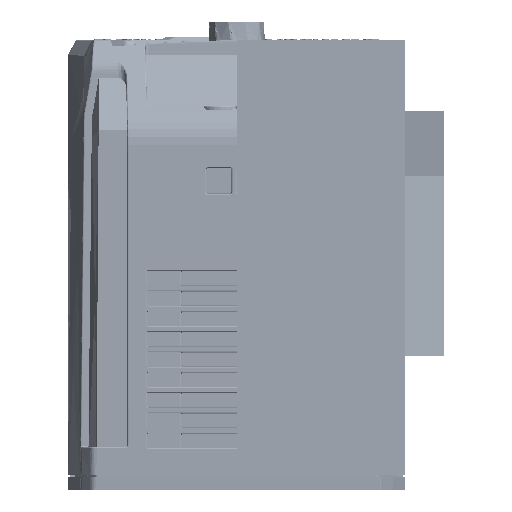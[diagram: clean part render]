
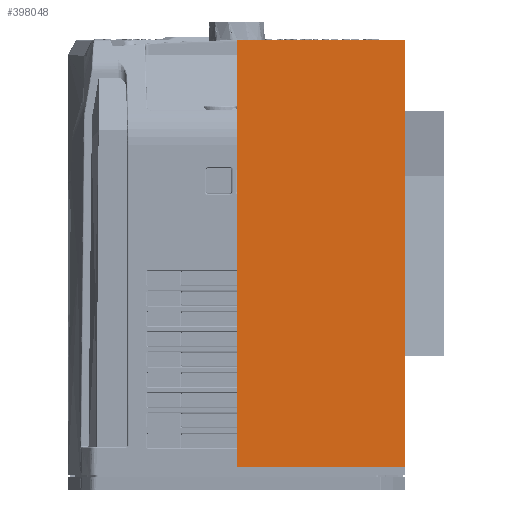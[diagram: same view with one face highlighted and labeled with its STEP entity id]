
A CAD part, front view. The second image highlights one B-rep face of the part: STEP entity #398048.
In plain terms, the highlighted planar face has unit normal (0, -1, 0) as drawn and (0, 0, 1) by its records, which use the part's own axes.
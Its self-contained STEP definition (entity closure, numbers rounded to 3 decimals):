
#397918=DIRECTION('',(1.,0.,0.));
#397919=VECTOR('',#397918,41.5);
#397920=CARTESIAN_POINT('',(0.,0.,74.5));
#397921=LINE('',#397920,#397919);
#397939=DIRECTION('',(0.,1.,0.));
#397940=VECTOR('',#397939,105.);
#397941=CARTESIAN_POINT('',(0.,0.,74.5));
#397942=LINE('',#397941,#397940);
#397967=DIRECTION('',(1.,0.,0.));
#397968=VECTOR('',#397967,41.5);
#397969=CARTESIAN_POINT('',(0.,105.,74.5));
#397970=LINE('',#397969,#397968);
#397988=DIRECTION('',(0.,1.,0.));
#397989=VECTOR('',#397988,105.);
#397990=CARTESIAN_POINT('',(41.5,0.,74.5));
#397991=LINE('',#397990,#397989);
#397995=CARTESIAN_POINT('',(41.5,0.,74.5));
#397997=VERTEX_POINT('',#397995);
#397999=CARTESIAN_POINT('',(41.5,105.,74.5));
#398001=VERTEX_POINT('',#397999);
#398003=CARTESIAN_POINT('',(0.,0.,74.5));
#398005=VERTEX_POINT('',#398003);
#398007=CARTESIAN_POINT('',(0.,105.,74.5));
#398009=VERTEX_POINT('',#398007);
#398034=CARTESIAN_POINT('',(-41.5,0.,74.5));
#398035=DIRECTION('',(0.,0.,1.));
#398036=DIRECTION('',(1.,0.,0.));
#398037=AXIS2_PLACEMENT_3D('',#398034,#398035,#398036);
#398038=PLANE('',#398037);
#398040=ORIENTED_EDGE('',*,*,#398039,.T.);
#398042=ORIENTED_EDGE('',*,*,#398041,.T.);
#398044=ORIENTED_EDGE('',*,*,#398043,.F.);
#398045=ORIENTED_EDGE('',*,*,#398018,.F.);
#398046=EDGE_LOOP('',(#398040,#398042,#398044,#398045));
#398047=FACE_OUTER_BOUND('',#398046,.F.);
#398018=EDGE_CURVE('',#398005,#397997,#397921,.T.);
#398039=EDGE_CURVE('',#398005,#398009,#397942,.T.);
#398041=EDGE_CURVE('',#398009,#398001,#397970,.T.);
#398043=EDGE_CURVE('',#397997,#398001,#397991,.T.);
#398048=ADVANCED_FACE('',(#398047),#398038,.T.);
